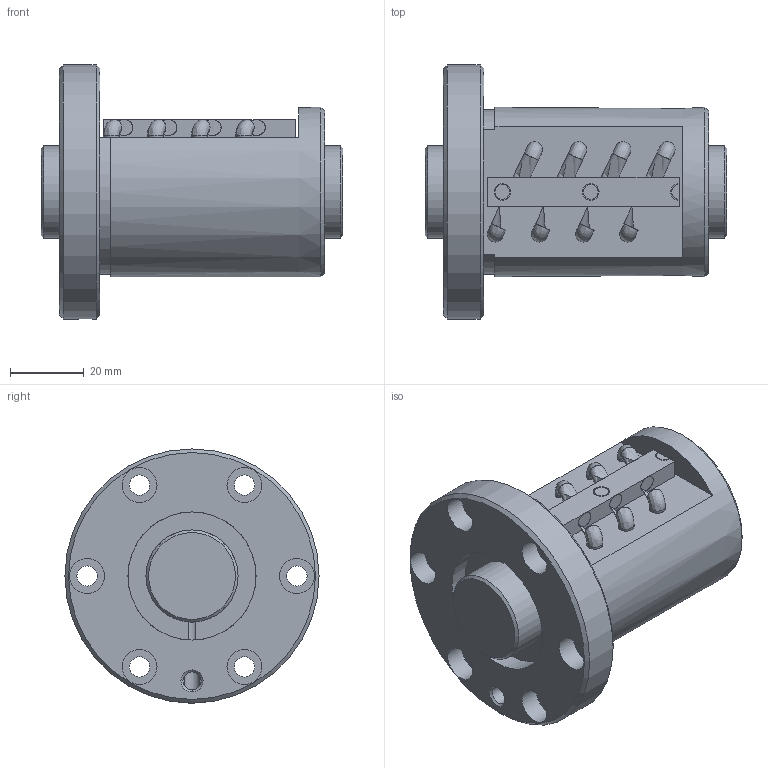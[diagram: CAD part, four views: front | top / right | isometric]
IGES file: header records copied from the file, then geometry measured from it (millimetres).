
Start section: Data from Parasolid IGES Translator 26.0.171, Copyright(c) 2006 Siemens PLM Software. All Rights Reserved.
Global section: file name: BIF2504V-10RRG0+82LC0_000.igs; native system: By Siemens PLM Incorporated; preprocessor: XPlus GENERIC/IGES 26.0.171; author: Noname; organization: Noname; date: 20240715.081714; units: millimetre
Bounding box: 82 x 69 x 69 mm (x, y, z)
Surface area: 34186 mm2 (no closed solid volume)
Topology: 0 solids, 0 shells, 136 faces, 646 edges, 612 vertices
Faces by surface type: revolution 81, extrusion 55
